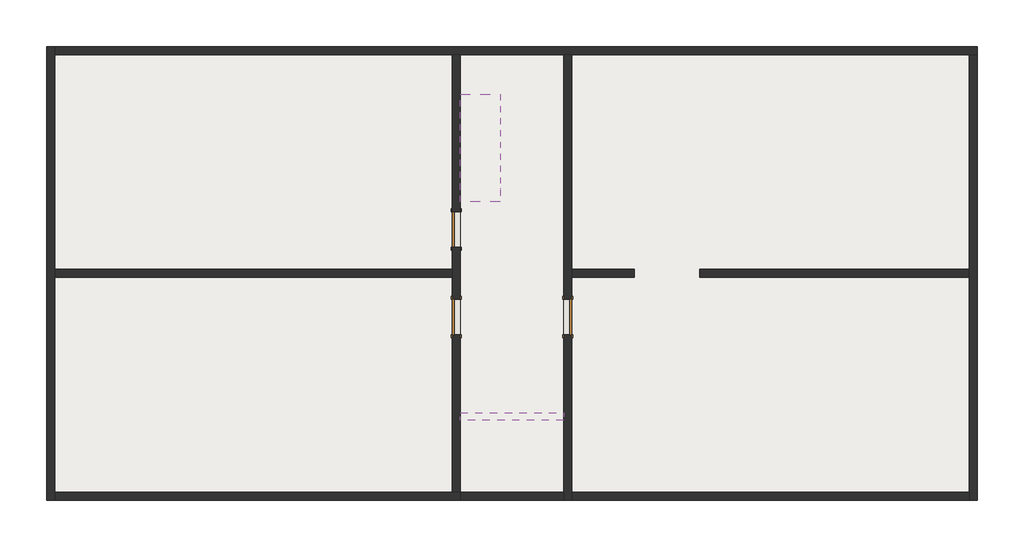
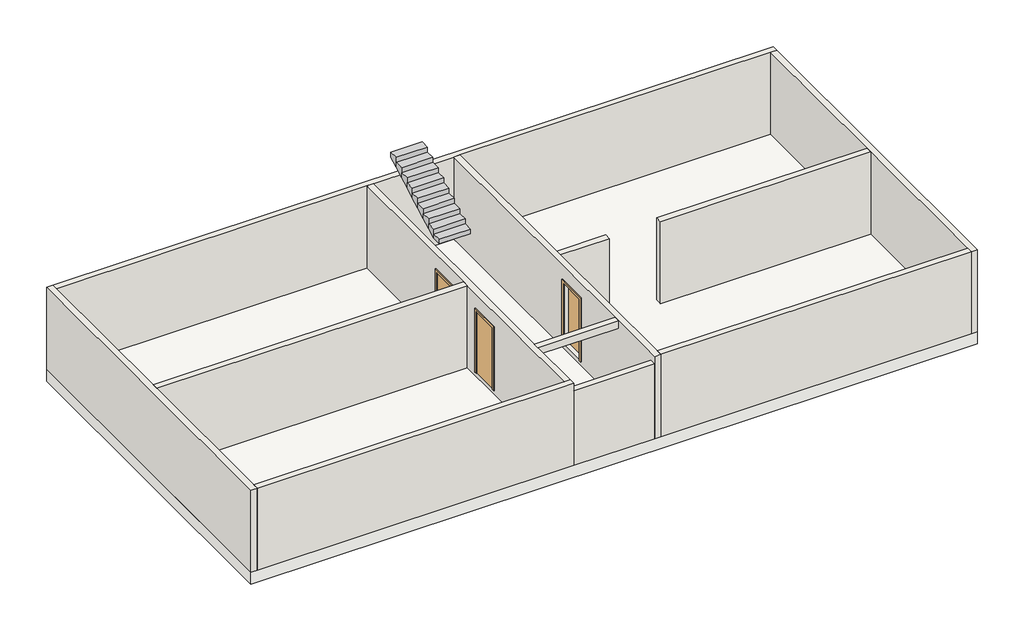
# One storey: 12 walls, 3 doors, 1 slab, 1 stair flight.
"""IFC4 building model written with IfcOpenShell, lengths in millimetres."""

from ifc_helpers import new_model, si_unit, frame, origin, place, context, project, spatial, polyline, outline, extrude, faceted_brep, transform, mapped, element, save
from components import door_900_x_2100mm_4fa88ec2, door_900_x_2100mm_1d00f630

model = new_model("IFC4")

# Units and contexts
model_context = context("Model", 3, world=origin())
ifc_project = project(units=[si_unit("LENGTHUNIT", "METRE", prefix="MILLI")], contexts=[model_context])

# Site, building, storey
site = spatial("IfcSite", under=ifc_project)
building = spatial("IfcBuilding", under=site)
storey = spatial("IfcBuildingStorey", under=building, Name="Suterén", Elevation=-3000.0)

# Doors
placement = place(None, origin())
door_900_x_2100mm_shape = door_900_x_2100mm_4fa88ec2(model_context)
element("IfcDoor", 1, ObjectType="M_Dveře, jednokřídlé, panel : 900 x 2100mm", at=placement, inside=storey, context=model_context, shape_type="MappedRepresentation", body=[
    mapped(door_900_x_2100mm_shape, transform((10100.0, 9100.0, -3000.0), x_axis=(0.0, -1.0, 0.0), y_axis=(1.0, 0.0, 0.0), z_axis=(0.0, 0.0, 1.0))),
])
element("IfcDoor", 2, ObjectType="M_Dveře, jednokřídlé, panel : 900 x 2100mm", at=placement, inside=storey, context=model_context, shape_type="MappedRepresentation", body=[
    mapped(door_900_x_2100mm_shape, transform((12900.0, 6900.0, -3000.0), x_axis=(0.0, 1.0, 0.0), y_axis=(-1.0, 0.0, 0.0), z_axis=(0.0, 0.0, 1.0))),
])
door_900_x_2100mm_2_shape = door_900_x_2100mm_1d00f630(model_context)
element("IfcDoor", 3, ObjectType="M_Dveře, jednokřídlé, panel : 900 x 2100mm", at=placement, inside=storey, context=model_context, shape_type="MappedRepresentation", body=[
    mapped(door_900_x_2100mm_2_shape, transform((10100.0, 6900.0, -3000.0), x_axis=(0.0, 1.0, 0.0), y_axis=(-1.0, 0.0, 0.0), z_axis=(0.0, 0.0, 1.0))),
])

# Slab
element("IfcSlab", 4, ObjectType="Železobeton 400 mm", at=placement, inside=storey, context=model_context, shape_type="SweptSolid", body=[
    extrude(outline(polyline([(23200.0, 13700.0), (23200.0, 2300.0), (-200.0, 2300.0), (-200.0, 13700.0), (23200.0, 13700.0)])), frame((0.0, 0.0, -3550.0), z_axis=(0.0, 0.0, 1.0), x_axis=(1.0, 0.0, 0.0)), (0.0, 0.0, 1.0), 400.0),
])

# Stair flight
element("IfcStairFlight", 5, ObjectType="150mm hloubka", at=placement, inside=storey, context=model_context, shape_type="Brep", body=[
    faceted_brep([(10200.0, 10100.0, 0.0), (10200.0, 9800.0, 0.0), (11200.0, 9800.0, 0.0), (11200.0, 10100.0, 0.0), (10200.0, 10100.0, -150.0), (10200.0, 9800.0, -150.0), (11200.0, 9800.0, -150.0), (11200.0, 10100.0, -150.0), (10200.0, 10400.0, 166.6666667), (10200.0, 10100.0, 166.6666667), (11200.0, 10100.0, 166.6666667), (11200.0, 10400.0, 166.6666667), (10200.0, 10400.0, -4.927169), (10200.0, 10138.8689042, -150.0), (11200.0, 10138.8689042, -150.0), (11200.0, 10400.0, -4.927169), (10200.0, 10700.0, 333.3333333), (10200.0, 10400.0, 333.3333333), (11200.0, 10400.0, 333.3333333), (11200.0, 10700.0, 333.3333333), (10200.0, 10700.0, 161.7394977), (11200.0, 10700.0, 161.7394977), (10200.0, 11000.0, 500.0), (10200.0, 10700.0, 500.0), (11200.0, 10700.0, 500.0), (11200.0, 11000.0, 500.0), (10200.0, 11000.0, 328.4061643), (11200.0, 11000.0, 328.4061643), (10200.0, 11300.0, 666.6666667), (10200.0, 11000.0, 666.6666667), (11200.0, 11000.0, 666.6666667), (11200.0, 11300.0, 666.6666667), (10200.0, 11300.0, 495.072831), (11200.0, 11300.0, 495.072831), (10200.0, 11600.0, 833.3333333), (10200.0, 11300.0, 833.3333333), (11200.0, 11300.0, 833.3333333), (11200.0, 11600.0, 833.3333333), (10200.0, 11600.0, 661.7394977), (11200.0, 11600.0, 661.7394977), (10200.0, 11900.0, 1000.0), (10200.0, 11600.0, 1000.0), (11200.0, 11600.0, 1000.0), (11200.0, 11900.0, 1000.0), (10200.0, 11900.0, 828.4061643), (11200.0, 11900.0, 828.4061643), (10200.0, 12200.0, 1166.6666667), (10200.0, 11900.0, 1166.6666667), (11200.0, 11900.0, 1166.6666667), (11200.0, 12200.0, 1166.6666667), (10200.0, 12200.0, 995.072831), (11200.0, 12200.0, 995.072831), (10200.0, 12500.0, 1161.7394977), (11200.0, 12500.0, 1161.7394977), (10200.0, 12500.0, 1333.3333333), (10200.0, 12200.0, 1333.3333333), (11200.0, 12200.0, 1333.3333333), (11200.0, 12500.0, 1333.3333333), (11200.0, 12500.0, 1200.0)], [[[0, 1, 2, 3]], [[1, 0, 4, 5]], [[2, 1, 5, 6]], [[3, 2, 6, 7]], [[8, 9, 10, 11]], [[4, 0, 9, 8, 12, 13]], [[0, 3, 10, 9]], [[3, 7, 14, 15, 11, 10]], [[16, 17, 18, 19]], [[17, 16, 20, 12, 8]], [[8, 11, 18, 17]], [[19, 18, 11, 15, 21]], [[22, 23, 24, 25]], [[23, 22, 26, 20, 16]], [[16, 19, 24, 23]], [[25, 24, 19, 21, 27]], [[28, 29, 30, 31]], [[29, 28, 32, 26, 22]], [[22, 25, 30, 29]], [[31, 30, 25, 27, 33]], [[34, 35, 36, 37]], [[35, 34, 38, 32, 28]], [[28, 31, 36, 35]], [[37, 36, 31, 33, 39]], [[40, 41, 42, 43]], [[41, 40, 44, 38, 34]], [[34, 37, 42, 41]], [[43, 42, 37, 39, 45]], [[46, 47, 48, 49]], [[47, 46, 50, 44, 40]], [[40, 43, 48, 47]], [[49, 48, 43, 45, 51]], [[5, 4, 13, 14, 7, 6]], [[14, 13, 12, 20, 26, 32, 38, 44, 50, 52, 53, 51, 45, 39, 33, 27, 21, 15]], [[54, 55, 56, 57]], [[55, 54, 52, 50, 46]], [[46, 49, 56, 55]], [[57, 56, 49, 51, 53, 58]], [[54, 57, 58, 53, 52]]]),
])

# Walls
element("IfcWall", 6, ObjectType="Železobeton 200 mm", at=placement, inside=storey, context=model_context, shape_type="Brep", body=[
    faceted_brep([(0.0, 2300.0, -3150.0), (0.0, 2500.0, -3150.0), (0.0, 7900.0, -3150.0), (0.0, 8100.0, -3150.0), (0.0, 13500.0, -3150.0), (0.0, 13700.0, -3150.0), (0.0, 13700.0, -350.0), (0.0, 13500.0, -350.0), (0.0, 8100.0, -350.0), (0.0, 7900.0, -350.0), (0.0, 2500.0, -350.0), (0.0, 2300.0, -350.0), (-200.0, 2300.0, -3150.0), (-200.0, 2300.0, -350.0), (-200.0, 13700.0, -350.0), (-200.0, 13700.0, -3150.0)], [[[0, 1, 2, 3, 4, 5, 6, 7, 8, 9, 10, 11]], [[12, 13, 14, 15]], [[5, 4, 3, 2, 1, 0, 12, 15]], [[11, 10, 9, 8, 7, 6, 14, 13]], [[6, 5, 15, 14]], [[0, 11, 13, 12]]]),
])
element("IfcWall", 7, ObjectType="Železobeton 200 mm", at=placement, inside=storey, context=model_context, shape_type="Brep", body=[
    faceted_brep([(0.0, 13500.0, -3150.0), (10000.0, 13500.0, -3150.0), (10200.0, 13500.0, -3150.0), (12800.0, 13500.0, -3150.0), (13000.0, 13500.0, -3150.0), (23000.0, 13500.0, -3150.0), (23200.0, 13500.0, -3150.0), (23200.0, 13500.0, -350.0), (23000.0, 13500.0, -350.0), (13000.0, 13500.0, -350.0), (12800.0, 13500.0, -350.0), (10200.0, 13500.0, -350.0), (10000.0, 13500.0, -350.0), (0.0, 13500.0, -350.0), (23200.0, 13700.0, -3150.0), (0.0, 13700.0, -3150.0), (0.0, 13700.0, -350.0), (23200.0, 13700.0, -350.0)], [[[0, 1, 2, 3, 4, 5, 6, 7, 8, 9, 10, 11, 12, 13]], [[14, 15, 16, 17]], [[6, 5, 4, 3, 2, 1, 0, 15, 14]], [[13, 12, 11, 10, 9, 8, 7, 17, 16]], [[0, 13, 16, 15]], [[7, 6, 14, 17]]]),
])
element("IfcWall", 8, ObjectType="Železobeton 200 mm", at=placement, inside=storey, context=model_context, shape_type="Brep", body=[
    faceted_brep([(23000.0, 13500.0, -3150.0), (23000.0, 8100.0, -3150.0), (23000.0, 7900.0, -3150.0), (23000.0, 2500.0, -3150.0), (23000.0, 2300.0, -3150.0), (23000.0, 2300.0, -350.0), (23000.0, 2500.0, -350.0), (23000.0, 7900.0, -350.0), (23000.0, 8100.0, -350.0), (23000.0, 13500.0, -350.0), (23200.0, 13500.0, -3150.0), (23200.0, 13500.0, -350.0), (23200.0, 2300.0, -350.0), (23200.0, 2300.0, -3150.0)], [[[0, 1, 2, 3, 4, 5, 6, 7, 8, 9]], [[10, 11, 12, 13]], [[4, 3, 2, 1, 0, 10, 13]], [[9, 8, 7, 6, 5, 12, 11]], [[0, 9, 11, 10]], [[5, 4, 13, 12]]]),
])
element("IfcWall", 9, ObjectType="Železobeton 200 mm", at=placement, inside=storey, context=model_context, shape_type="Brep", body=[
    faceted_brep([(13000.0, 2300.0, -350.0), (13000.0, 2300.0, -3150.0), (13000.0, 2500.0, -3150.0), (13000.0, 7900.0, -3150.0), (13000.0, 8100.0, -3150.0), (13000.0, 13500.0, -3150.0), (13000.0, 13500.0, -350.0), (13000.0, 8100.0, -350.0), (13000.0, 7900.0, -350.0), (13000.0, 2500.0, -350.0), (13000.0, 6450.0, -3000.0), (13000.0, 6450.0, -900.0), (13000.0, 7350.0, -900.0), (13000.0, 7350.0, -3000.0), (12800.0, 2300.0, -3150.0), (12800.0, 2300.0, -600.0), (12800.0, 2300.0, -350.0), (12800.0, 4300.0, -350.0), (12800.0, 4500.0, -350.0), (12800.0, 13500.0, -350.0), (12800.0, 13500.0, -3150.0), (12800.0, 2500.0, -3150.0), (12800.0, 6450.0, -3000.0), (12800.0, 7350.0, -3000.0), (12800.0, 7350.0, -900.0), (12800.0, 6450.0, -900.0)], [[[0, 1, 2, 3, 4, 5, 6, 7, 8, 9], [10, 11, 12, 13]], [[14, 15, 16, 17, 18, 19, 20, 21], [22, 23, 24, 25]], [[5, 4, 3, 2, 1, 14, 21, 20]], [[0, 9, 8, 7, 6, 19, 18, 17, 16]], [[6, 5, 20, 19]], [[23, 22, 10, 13]], [[24, 23, 13, 12]], [[25, 24, 12, 11]], [[22, 25, 11, 10]], [[0, 16, 15, 14, 1]]]),
])
element("IfcWall", 10, ObjectType="Železobeton 200 mm", at=placement, inside=storey, context=model_context, shape_type="SweptSolid", body=[
    extrude(outline(polyline([(10200.0, 4500.0), (12800.0, 4500.0), (12800.0, 4300.0), (10200.0, 4300.0), (10200.0, 4500.0)])), frame((0.0, 0.0, -600.0), z_axis=(0.0, 0.0, 1.0), x_axis=(1.0, 0.0, 0.0)), (0.0, 0.0, 1.0), 250.0),
])
element("IfcWall", 11, ObjectType="Železobeton 200 mm", at=placement, inside=storey, context=model_context, shape_type="Brep", body=[
    faceted_brep([(10000.0, 13500.0, -3150.0), (10000.0, 8100.0, -3150.0), (10000.0, 7900.0, -3150.0), (10000.0, 2500.0, -3150.0), (10000.0, 2500.0, -350.0), (10000.0, 7900.0, -350.0), (10000.0, 8100.0, -350.0), (10000.0, 13500.0, -350.0), (10000.0, 9550.0, -3000.0), (10000.0, 9550.0, -900.0), (10000.0, 8650.0, -900.0), (10000.0, 8650.0, -3000.0), (10000.0, 6450.0, -3000.0), (10000.0, 7350.0, -3000.0), (10000.0, 7350.0, -900.0), (10000.0, 6450.0, -900.0), (10200.0, 13500.0, -3150.0), (10200.0, 13500.0, -350.0), (10200.0, 4500.0, -350.0), (10200.0, 4300.0, -350.0), (10200.0, 2500.0, -350.0), (10200.0, 2500.0, -3150.0), (10200.0, 9550.0, -3000.0), (10200.0, 8650.0, -3000.0), (10200.0, 8650.0, -900.0), (10200.0, 9550.0, -900.0), (10200.0, 6450.0, -3000.0), (10200.0, 6450.0, -900.0), (10200.0, 7350.0, -900.0), (10200.0, 7350.0, -3000.0)], [[[0, 1, 2, 3, 4, 5, 6, 7], [8, 9, 10, 11], [12, 13, 14, 15]], [[16, 17, 18, 19, 20, 21], [22, 23, 24, 25], [26, 27, 28, 29]], [[3, 2, 1, 0, 16, 21]], [[7, 6, 5, 4, 20, 19, 18, 17]], [[0, 7, 17, 16]], [[23, 22, 8, 11]], [[24, 23, 11, 10]], [[25, 24, 10, 9]], [[22, 25, 9, 8]], [[13, 12, 26, 29]], [[14, 13, 29, 28]], [[15, 14, 28, 27]], [[12, 15, 27, 26]], [[3, 21, 20, 4]]]),
])
element("IfcWall", 12, ObjectType="Železobeton 200 mm", at=placement, inside=storey, context=model_context, shape_type="SweptSolid", body=[
    extrude(outline(polyline([(13000.0, 2500.0), (23000.0, 2500.0), (23000.0, 2300.0), (13000.0, 2300.0), (13000.0, 2500.0)])), frame((0.0, 0.0, -3150.0), z_axis=(0.0, 0.0, 1.0), x_axis=(1.0, 0.0, 0.0)), (0.0, 0.0, 1.0), 2800.0),
])
element("IfcWall", 13, ObjectType="Železobeton 200 mm", at=placement, inside=storey, context=model_context, shape_type="SweptSolid", body=[
    extrude(outline(polyline([(10000.0, 7900.0), (0.0, 7900.0), (0.0, 8100.0), (10000.0, 8100.0), (10000.0, 7900.0)])), frame((0.0, 0.0, -3150.0), z_axis=(0.0, 0.0, 1.0), x_axis=(1.0, 0.0, 0.0)), (0.0, 0.0, 1.0), 2800.0),
])
element("IfcWall", 14, ObjectType="Železobeton 200 mm", at=placement, inside=storey, context=model_context, shape_type="SweptSolid", body=[
    extrude(outline(polyline([(14575.0, 7900.0), (13000.0, 7900.0), (13000.0, 8100.0), (14575.0, 8100.0), (14575.0, 7900.0)])), frame((0.0, 0.0, -3150.0), z_axis=(0.0, 0.0, 1.0), x_axis=(1.0, 0.0, 0.0)), (0.0, 0.0, 1.0), 2800.0),
])
element("IfcWall", 15, ObjectType="Železobeton 200 mm", at=placement, inside=storey, context=model_context, shape_type="SweptSolid", body=[
    extrude(outline(polyline([(23000.0, 7900.0), (16225.0, 7900.0), (16225.0, 8100.0), (23000.0, 8100.0), (23000.0, 7900.0)])), frame((0.0, 0.0, -3150.0), z_axis=(0.0, 0.0, 1.0), x_axis=(1.0, 0.0, 0.0)), (0.0, 0.0, 1.0), 2800.0),
])
element("IfcWall", 16, ObjectType="Železobeton 200 mm", at=placement, inside=storey, context=model_context, shape_type="SweptSolid", body=[
    extrude(outline(polyline([(10200.0, 2500.0), (12800.0, 2500.0), (12800.0, 2300.0), (10200.0, 2300.0), (10200.0, 2500.0)])), frame((0.0, 0.0, -3150.0), z_axis=(0.0, 0.0, 1.0), x_axis=(1.0, 0.0, 0.0)), (0.0, 0.0, 1.0), 2550.0),
])
element("IfcWall", 17, ObjectType="Železobeton 200 mm", at=placement, inside=storey, context=model_context, shape_type="Brep", body=[
    faceted_brep([(10200.0, 2500.0, -350.0), (10200.0, 2500.0, -600.0), (10200.0, 2500.0, -3150.0), (10000.0, 2500.0, -3150.0), (0.0, 2500.0, -3150.0), (0.0, 2500.0, -350.0), (10000.0, 2500.0, -350.0), (10200.0, 2300.0, -3150.0), (10200.0, 2300.0, -600.0), (10200.0, 2300.0, -350.0), (0.0, 2300.0, -350.0), (0.0, 2300.0, -3150.0)], [[[0, 1, 2, 3, 4, 5, 6]], [[7, 8, 9, 10, 11]], [[4, 3, 2, 7, 11]], [[0, 6, 5, 10, 9]], [[5, 4, 11, 10]], [[0, 9, 8, 7, 2, 1]]]),
])

save(model, "model.ifc")
